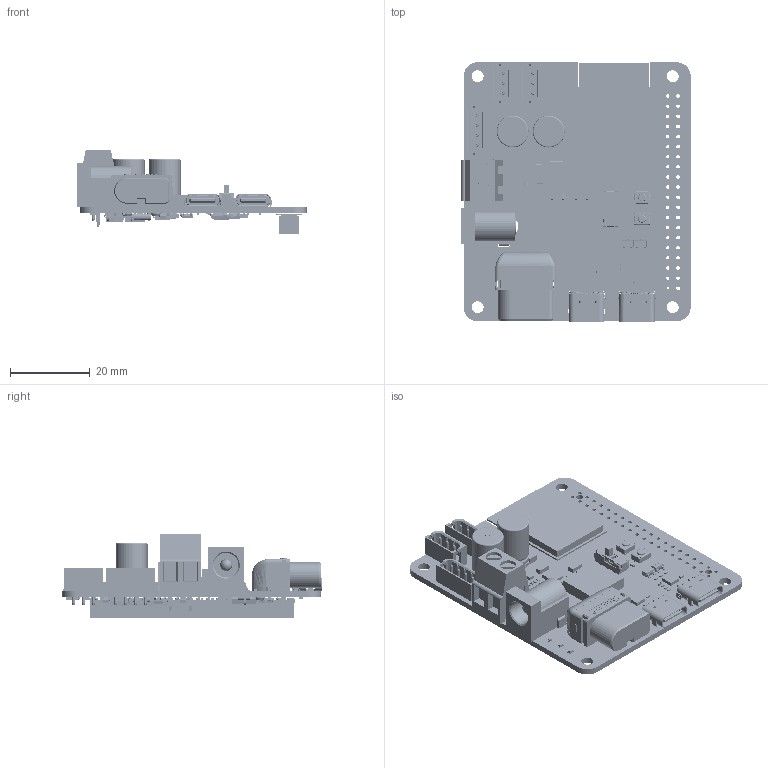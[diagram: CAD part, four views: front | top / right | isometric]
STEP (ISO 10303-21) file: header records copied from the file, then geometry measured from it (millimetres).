
FILE_DESCRIPTION(('Open CASCADE Model'),'2;1');
FILE_NAME('Open CASCADE Shape Model','2024-04-27T16:54:44',('Author'),( 'Open CASCADE'),'Open CASCADE STEP processor 6.5','Open CASCADE 6.5' ,'Unknown');
FILE_SCHEMA(('AUTOMOTIVE_DESIGN { 1 0 10303 214 1 1 1 1 }'));
Length unit declared in the file: millimetre
Products named in the file (245): PCB; Board; C26; CS_SMD_8x12; CT_8X12-C-3374_AF0_ASM; CT_8X12-C-12358_AF0_ASM; _4_1_2_3_4_AF0; _3_1__1_2_3_40001; _3_2__1_2_3_40001; J1; User_Library-TER-KF128-2P; TVS2; 1261826560; Extruded; LED3; User_Library-LED_0603_R; User_Library-LED_0603_R_Pocket002; User_Library-LED_0603_R_Pad004; User_Library-LED_0603_R_Fillet; User_Library-LED_0603_R_Pocket001; User_Library-LED_0603_R_Pad; LED2; LED1; C1; C_0402; C_0402-4045_AF0_ASM; C_0402-672_AF0_ASM; _1_10001; 3_1_A; 2_100; C2; C3; C4; C5; C6; C7; C8; C_0603; C_0603-7177_AF0_ASM; C_0603-683_AF0_ASM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
Assembly tree (350 placements, depth 6):
  PCB
    Board
    C26
      CS_SMD_8x12
        CT_8X12-C-3374_AF0_ASM
          CT_8X12-C-12358_AF0_ASM
            _4_1_2_3_4_AF0
            _3_1__1_2_3_40001
            _3_2__1_2_3_40001
    J1
      User_Library-TER-KF128-2P
    TVS2
      1261826560
        Extruded
    LED3
      User_Library-LED_0603_R
        User_Library-LED_0603_R_Pocket002
        User_Library-LED_0603_R_Pad004
        User_Library-LED_0603_R_Fillet
        User_Library-LED_0603_R_Pocket001
        User_Library-LED_0603_R_Pad
    LED2
      User_Library-LED_0603_R
        User_Library-LED_0603_R_Pocket002
        User_Library-LED_0603_R_Pad004
        User_Library-LED_0603_R_Fillet
        User_Library-LED_0603_R_Pocket001
        User_Library-LED_0603_R_Pad
    LED1
      User_Library-LED_0603_R
        User_Library-LED_0603_R_Pocket002
        User_Library-LED_0603_R_Pad004
        User_Library-LED_0603_R_Fillet
        User_Library-LED_0603_R_Pocket001
        User_Library-LED_0603_R_Pad
    C1
      C_0402
        C_0402-4045_AF0_ASM
          C_0402-672_AF0_ASM
            _1_10001
            3_1_A
            2_100
    C2
      C_0402
        C_0402-4045_AF0_ASM
          C_0402-672_AF0_ASM
            _1_10001
            3_1_A
            2_100
    C3
      C_0402
        C_0402-4045_AF0_ASM
          C_0402-672_AF0_ASM
            _1_10001
            3_1_A
            2_100
    C4
      C_0402
        C_0402-4045_AF0_ASM
          C_0402-672_AF0_ASM
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Bounding box: 57.6 x 65.16 x 21.15 mm (x, y, z)
Volume: 13812.2 mm3; surface area: 22252.7 mm2
Topology: 361 solids, 390 shells, 41779 faces, 111696 edges, 73419 vertices
Faces by surface type: plane 29894, extrusion 7412, cylinder 3003, bspline 859, sphere 387, cone 140, torus 76, revolution 8
Full cylindrical faces by diameter (mm): 0.64 x6, 0.762 x4, 0.95 x40, 1 x10, 1.2 x2, 1.6 x1, 1.7 x3, 1.8 x2, 2.9 x2, 3 x4
Entity records: 888947 total; most frequent: CARTESIAN_POINT 332810, DIRECTION 82871, VECTOR 59135, LINE 57768, ORIENTED_EDGE 55276, PCURVE 55276, DEFINITIONAL_REPRESENTATION 55276, EDGE_CURVE 27639
